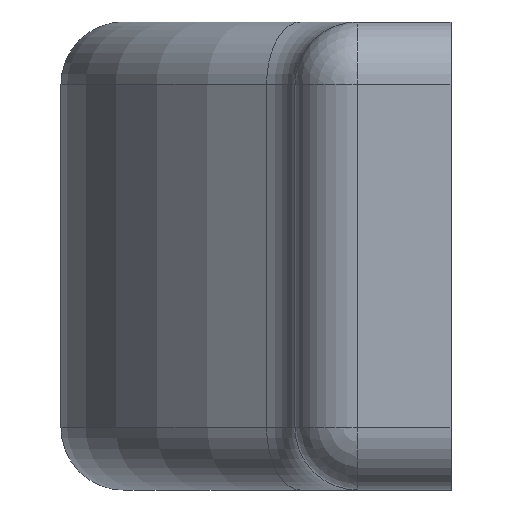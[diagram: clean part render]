
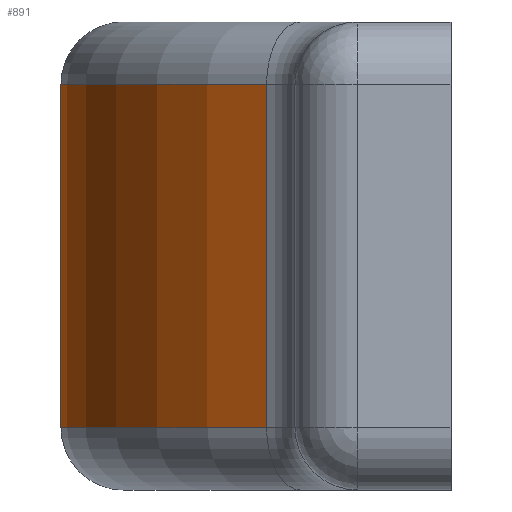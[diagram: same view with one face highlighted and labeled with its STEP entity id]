
A CAD part, front view. The second image highlights one B-rep face of the part: STEP entity #891.
In plain terms, the highlighted cylindrical face has radius 18.415 mm (diameter 36.83 mm), a partial arc.
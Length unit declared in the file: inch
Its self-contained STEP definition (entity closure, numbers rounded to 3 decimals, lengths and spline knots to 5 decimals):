
#15 = DIRECTION ( 'NONE',  ( 0., 0., 1. ) ) ;
#21 = VERTEX_POINT ( 'NONE', #195 ) ;
#31 = VECTOR ( 'NONE', #907, 39.37008 ) ;
#33 = VERTEX_POINT ( 'NONE', #221 ) ;
#104 = CIRCLE ( 'NONE', #1198, 0.725 ) ;
#105 = FACE_OUTER_BOUND ( 'NONE', #109, .T. ) ;
#109 = EDGE_LOOP ( 'NONE', ( #941, #446, #910, #361 ) ) ;
#116 = VERTEX_POINT ( 'NONE', #784 ) ;
#138 = DIRECTION ( 'NONE',  ( 0., 0., -1. ) ) ;
#143 = CARTESIAN_POINT ( 'NONE',  ( -0.39545, -0.60765, 0.375 ) ) ;
#163 = LINE ( 'NONE', #329, #931 ) ;
#193 = AXIS2_PLACEMENT_3D ( 'NONE', #584, #490, #871 ) ;
#195 = CARTESIAN_POINT ( 'NONE',  ( -0.725, 0., -0.275 ) ) ;
#215 = CARTESIAN_POINT ( 'NONE',  ( -0.39545, -0.60765, 0.275 ) ) ;
#221 = CARTESIAN_POINT ( 'NONE',  ( -0.725, 0., 0.275 ) ) ;
#284 = AXIS2_PLACEMENT_3D ( 'NONE', #763, #15, #681 ) ;
#329 = CARTESIAN_POINT ( 'NONE',  ( -0.725, 0., 0.375 ) ) ;
#333 = DIRECTION ( 'NONE',  ( 0., 0., -1. ) ) ;
#361 = ORIENTED_EDGE ( 'NONE', *, *, #1056, .T. ) ;
#419 = VERTEX_POINT ( 'NONE', #215 ) ;
#443 = EDGE_CURVE ( 'NONE', #419, #33, #104, .T. ) ;
#446 = ORIENTED_EDGE ( 'NONE', *, *, #981, .T. ) ;
#484 = CYLINDRICAL_SURFACE ( 'NONE', #193, 0.725 ) ;
#490 = DIRECTION ( 'NONE',  ( 0., 0., -1. ) ) ;
#584 = CARTESIAN_POINT ( 'NONE',  ( 0., 0., 0.375 ) ) ;
#681 = DIRECTION ( 'NONE',  ( 1., 0., 0. ) ) ;
#694 = CARTESIAN_POINT ( 'NONE',  ( 0., 0., 0.275 ) ) ;
#718 = CIRCLE ( 'NONE', #284, 0.725 ) ;
#723 = LINE ( 'NONE', #143, #31 ) ;
#763 = CARTESIAN_POINT ( 'NONE',  ( 0., 0., -0.275 ) ) ;
#771 = DIRECTION ( 'NONE',  ( 1., 0., 0. ) ) ;
#784 = CARTESIAN_POINT ( 'NONE',  ( -0.39545, -0.60765, -0.275 ) ) ;
#862 = EDGE_CURVE ( 'NONE', #21, #116, #718, .T. ) ;
#871 = DIRECTION ( 'NONE',  ( -1., 0., 0. ) ) ;
#891 = ADVANCED_FACE ( 'NONE', ( #105 ), #484, .T. ) ;
#907 = DIRECTION ( 'NONE',  ( 0., 0., 1. ) ) ;
#910 = ORIENTED_EDGE ( 'NONE', *, *, #862, .T. ) ;
#931 = VECTOR ( 'NONE', #333, 39.37008 ) ;
#941 = ORIENTED_EDGE ( 'NONE', *, *, #443, .T. ) ;
#981 = EDGE_CURVE ( 'NONE', #33, #21, #163, .T. ) ;
#1056 = EDGE_CURVE ( 'NONE', #116, #419, #723, .T. ) ;
#1198 = AXIS2_PLACEMENT_3D ( 'NONE', #694, #138, #771 ) ;
